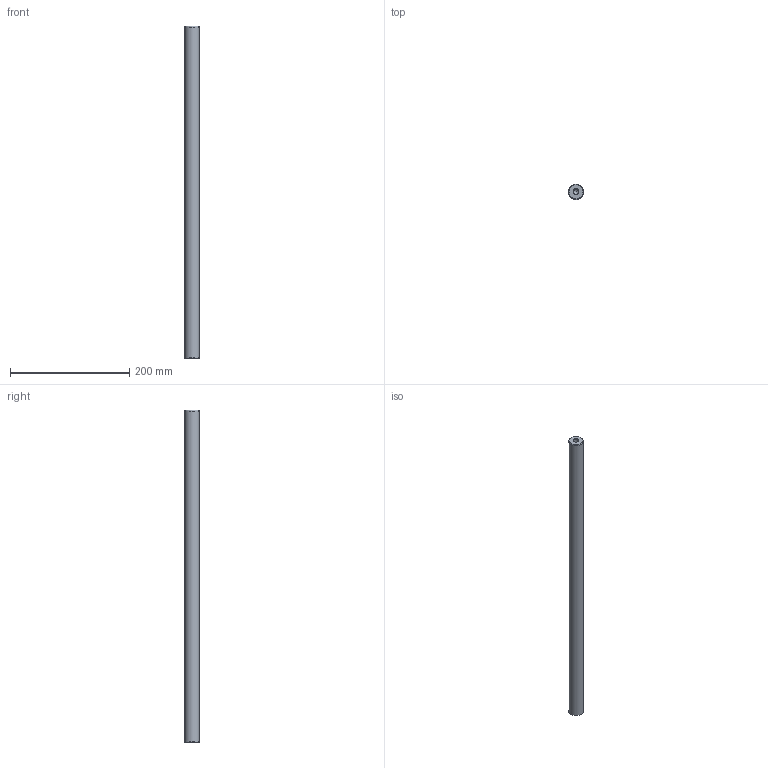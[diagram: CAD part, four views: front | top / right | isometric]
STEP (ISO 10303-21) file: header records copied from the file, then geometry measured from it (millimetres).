
FILE_DESCRIPTION( ( 'STEP AP214' ), '1' );
FILE_NAME( 'U:/Etudes/Top Solid/BIBLIO_Fournisseur/Colonnes UG/Ø25x556.step', '2004-12-22T12:45:09', ( ' ' ), ( ' ' ), 'XStep 1.0', ' ', ' ' );
FILE_SCHEMA( ( 'automotive_design' ) );
Length unit declared in the file: metre
Products named in the file (1): 1
Bounding box: 25 x 25 x 556 mm (x, y, z)
Volume: 269878.5 mm3; surface area: 45942.6 mm2
Topology: 1 solids, 1 shells, 13 faces, 27 edges, 16 vertices
Faces by surface type: cone 6, cylinder 5, plane 2
Full cylindrical faces by diameter (mm): 8.376 x4, 25 x1
Entity records: 382 total; most frequent: DIRECTION 52, CARTESIAN_POINT 40, AXIS2_PLACEMENT_3D 26, EDGE_LOOP 24, ORIENTED_EDGE 24, FACE_OUTER_BOUND 18, VERTEX_POINT 14, STYLED_ITEM 13
